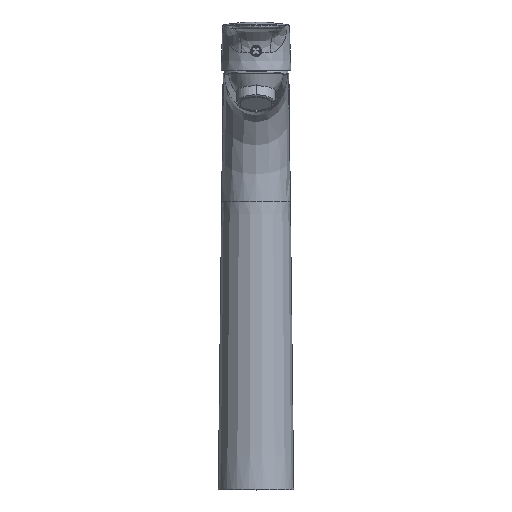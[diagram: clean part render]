
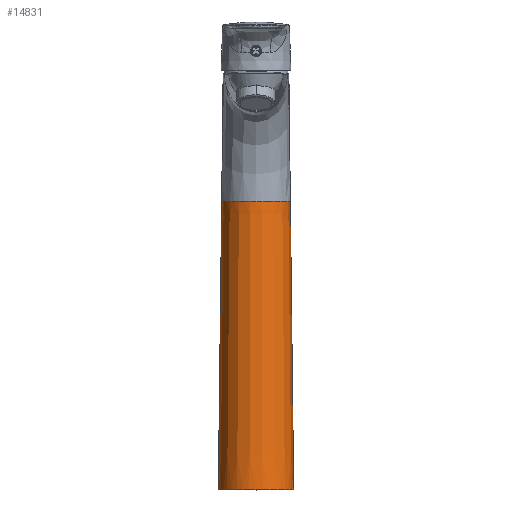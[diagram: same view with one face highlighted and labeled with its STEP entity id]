
A CAD part, top view. The second image highlights one B-rep face of the part: STEP entity #14831.
In plain terms, the highlighted conical face has half-angle 0.661 degrees and reference radius 22.009 mm.
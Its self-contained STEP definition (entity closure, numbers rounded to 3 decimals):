
#1413=DIRECTION('',(0.012,1.,0.));
#1414=VECTOR('',#1413,258.517);
#1415=CARTESIAN_POINT('',(-23.5,0.,0.));
#1416=LINE('',#1415,#1414);
#1427=CARTESIAN_POINT('',(0.,0.,0.));
#1428=DIRECTION('',(0.,-1.,0.));
#1429=DIRECTION('',(1.,0.,0.));
#1430=AXIS2_PLACEMENT_3D('',#1427,#1428,#1429);
#1432=CARTESIAN_POINT('',(0.,258.5,0.));
#1433=DIRECTION('',(0.,-1.,0.));
#1434=DIRECTION('',(-1.,0.,0.021));
#1435=AXIS2_PLACEMENT_3D('',#1432,#1433,#1434);
#1437=CARTESIAN_POINT('',(-20.513,258.5,0.429));
#1438=CARTESIAN_POINT('',(-20.614,249.722,
0.431));
#1439=CARTESIAN_POINT('',(-20.817,232.204,
0.417));
#1440=CARTESIAN_POINT('',(-21.118,206.036,
0.424));
#1441=CARTESIAN_POINT('',(-21.319,188.662,
0.424));
#1442=CARTESIAN_POINT('',(-21.419,179.995,
0.426));
#1444=CARTESIAN_POINT('',(0.,179.994,0.));
#1445=DIRECTION('',(0.,-1.,0.));
#1446=DIRECTION('',(1.,0.,0.02));
#1447=AXIS2_PLACEMENT_3D('',#1444,#1445,#1446);
#1449=CARTESIAN_POINT('',(21.419,179.994,0.426));
#1450=CARTESIAN_POINT('',(21.418,180.045,0.431));
#1451=CARTESIAN_POINT('',(21.417,180.145,0.437));
#1452=CARTESIAN_POINT('',(21.415,180.289,0.439));
#1453=CARTESIAN_POINT('',(21.414,180.426,0.436));
#1454=CARTESIAN_POINT('',(21.413,180.513,0.429));
#1455=CARTESIAN_POINT('',(21.412,180.556,0.425));
#1457=CARTESIAN_POINT('',(21.412,180.556,0.425));
#1458=CARTESIAN_POINT('',(21.313,189.175,0.423));
#1459=CARTESIAN_POINT('',(21.114,206.44,0.424));
#1460=CARTESIAN_POINT('',(20.814,232.421,0.417));
#1461=CARTESIAN_POINT('',(20.613,249.798,0.431));
#1462=CARTESIAN_POINT('',(20.513,258.5,0.429));
#1464=CARTESIAN_POINT('',(0.,258.5,0.));
#1465=DIRECTION('',(0.,-1.,0.));
#1466=DIRECTION('',(1.,0.,0.));
#1467=AXIS2_PLACEMENT_3D('',#1464,#1465,#1466);
#1469=DIRECTION('',(-0.012,1.,0.));
#1470=VECTOR('',#1469,258.517);
#1471=CARTESIAN_POINT('',(23.5,0.,0.));
#1472=LINE('',#1471,#1470);
#12331=CARTESIAN_POINT('',(21.419,179.994,
0.426));
#12332=CARTESIAN_POINT('',(-21.419,179.994,
0.426));
#12333=VERTEX_POINT('',#12331);
#12334=VERTEX_POINT('',#12332);
#12335=VERTEX_POINT('',#1455);
#12350=CARTESIAN_POINT('',(-20.517,258.5,0.));
#12351=CARTESIAN_POINT('',(20.517,258.5,0.));
#12352=VERTEX_POINT('',#12350);
#12353=VERTEX_POINT('',#12351);
#12354=CARTESIAN_POINT('',(20.513,258.5,0.429));
#12355=VERTEX_POINT('',#12354);
#12356=CARTESIAN_POINT('',(-20.513,258.5,0.429));
#12357=VERTEX_POINT('',#12356);
#12364=CARTESIAN_POINT('',(-23.5,0.,0.));
#12365=CARTESIAN_POINT('',(23.5,0.,0.));
#12366=VERTEX_POINT('',#12364);
#12367=VERTEX_POINT('',#12365);
#14811=CARTESIAN_POINT('',(0.,129.25,0.));
#14812=DIRECTION('',(0.,-1.,0.));
#14813=DIRECTION('',(1.,0.,0.));
#14814=AXIS2_PLACEMENT_3D('',#14811,#14812,#14813);
#14815=CONICAL_SURFACE('',#14814,22.009,0.661);
#14816=ORIENTED_EDGE('',*,*,#14800,.T.);
#14817=ORIENTED_EDGE('',*,*,#14789,.T.);
#14818=ORIENTED_EDGE('',*,*,#14755,.F.);
#14820=ORIENTED_EDGE('',*,*,#14819,.T.);
#14822=ORIENTED_EDGE('',*,*,#14821,.F.);
#14824=ORIENTED_EDGE('',*,*,#14823,.T.);
#14826=ORIENTED_EDGE('',*,*,#14825,.T.);
#14827=ORIENTED_EDGE('',*,*,#14747,.F.);
#14828=ORIENTED_EDGE('',*,*,#14786,.F.);
#14829=EDGE_LOOP('',(#14816,#14817,#14818,#14820,#14822,#14824,#14826,#14827,
#14828));
#14830=FACE_OUTER_BOUND('',#14829,.F.);
#14831=ADVANCED_FACE('',(#14830),#14815,.T.);
#1431=CIRCLE('',#1430,23.5);
#1436=CIRCLE('',#1435,20.517);
#1443=B_SPLINE_CURVE_WITH_KNOTS('',3,(#1437,#1438,#1439,#1440,#1441,#1442),
.UNSPECIFIED.,.F.,.F.,(4,1,1,4),(0.,0.333,0.667,1.),
.UNSPECIFIED.);
#1448=CIRCLE('',#1447,21.423);
#1456=B_SPLINE_CURVE_WITH_KNOTS('',3,(#1449,#1450,#1451,#1452,#1453,#1454,
#1455),.UNSPECIFIED.,.F.,.F.,(4,1,1,1,4),(0.,0.25,0.5,0.75,1.),
.UNSPECIFIED.);
#1463=B_SPLINE_CURVE_WITH_KNOTS('',3,(#1457,#1458,#1459,#1460,#1461,#1462),
.UNSPECIFIED.,.F.,.F.,(4,1,1,4),(0.,0.333,0.667,1.),
.UNSPECIFIED.);
#1468=CIRCLE('',#1467,20.517);
#14747=EDGE_CURVE('',#12353,#12355,#1468,.T.);
#14755=EDGE_CURVE('',#12357,#12352,#1436,.T.);
#14786=EDGE_CURVE('',#12367,#12353,#1472,.T.);
#14789=EDGE_CURVE('',#12366,#12352,#1416,.T.);
#14800=EDGE_CURVE('',#12367,#12366,#1431,.T.);
#14819=EDGE_CURVE('',#12357,#12334,#1443,.T.);
#14821=EDGE_CURVE('',#12333,#12334,#1448,.T.);
#14823=EDGE_CURVE('',#12333,#12335,#1456,.T.);
#14825=EDGE_CURVE('',#12335,#12355,#1463,.T.);
